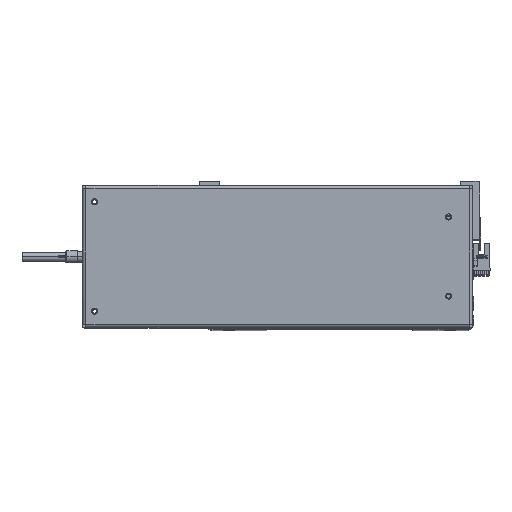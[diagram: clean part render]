
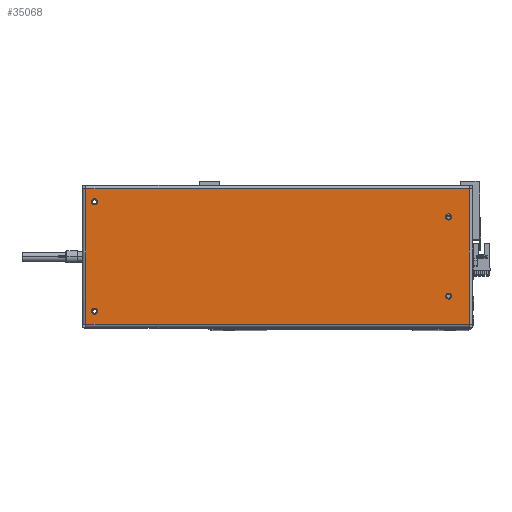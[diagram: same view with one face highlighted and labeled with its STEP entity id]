
A CAD part, top view. The second image highlights one B-rep face of the part: STEP entity #35068.
In plain terms, the highlighted planar face has unit normal (0, 0, 1).
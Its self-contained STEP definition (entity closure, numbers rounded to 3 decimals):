
#1861 = AXIS2_PLACEMENT_3D ( 'NONE', #13946, #34556, #20156 ) ;
#2189 = AXIS2_PLACEMENT_3D ( 'NONE', #35430, #24112, #14944 ) ;
#2512 = FACE_BOUND ( 'NONE', #4828, .T. ) ;
#2666 = EDGE_CURVE ( 'NONE', #33954, #14038, #34291, .T. ) ;
#3091 = CARTESIAN_POINT ( 'NONE',  ( -143., -32.5, 0. ) ) ;
#3114 = DIRECTION ( 'NONE',  ( 1., 0., 0. ) ) ;
#3183 = CARTESIAN_POINT ( 'NONE',  ( -138., 32.5, 0. ) ) ;
#3273 = EDGE_CURVE ( 'NONE', #18492, #30164, #16940, .T. ) ;
#3516 = AXIS2_PLACEMENT_3D ( 'NONE', #35820, #27159, #9855 ) ;
#3639 = DIRECTION ( 'NONE',  ( 0., 1., 0. ) ) ;
#3706 = EDGE_CURVE ( 'NONE', #22239, #27995, #26447, .T. ) ;
#3709 = CARTESIAN_POINT ( 'NONE',  ( 157.6, 55.6, 0. ) ) ;
#3808 = CARTESIAN_POINT ( 'NONE',  ( 148., 45., 0. ) ) ;
#3851 = FACE_BOUND ( 'NONE', #33537, .T. ) ;
#4302 = CARTESIAN_POINT ( 'NONE',  ( -143., 32.5, 0. ) ) ;
#4456 = EDGE_CURVE ( 'NONE', #30164, #18492, #10481, .T. ) ;
#4828 = EDGE_LOOP ( 'NONE', ( #11140, #32225 ) ) ;
#4890 = DIRECTION ( 'NONE',  ( 0., 0., -1. ) ) ;
#5568 = CARTESIAN_POINT ( 'NONE',  ( -157.6, 55.6, 0. ) ) ;
#5582 = AXIS2_PLACEMENT_3D ( 'NONE', #9362, #21182, #32375 ) ;
#6057 = EDGE_CURVE ( 'NONE', #23027, #34399, #19847, .T. ) ;
#7145 = CIRCLE ( 'NONE', #31377, 2.5 ) ;
#7345 = DIRECTION ( 'NONE',  ( 0., 0., 1. ) ) ;
#7650 = ORIENTED_EDGE ( 'NONE', *, *, #28507, .T. ) ;
#7818 = DIRECTION ( 'NONE',  ( -1., 0., 0. ) ) ;
#8542 = CARTESIAN_POINT ( 'NONE',  ( -140.5, 32.5, 0. ) ) ;
#9362 = CARTESIAN_POINT ( 'NONE',  ( 150.5, 45., 0. ) ) ;
#9855 = DIRECTION ( 'NONE',  ( 1., 0., 0. ) ) ;
#10481 = CIRCLE ( 'NONE', #2189, 2.5 ) ;
#10822 = AXIS2_PLACEMENT_3D ( 'NONE', #34034, #4890, #7818 ) ;
#11140 = ORIENTED_EDGE ( 'NONE', *, *, #19037, .F. ) ;
#12940 = CARTESIAN_POINT ( 'NONE',  ( 153., -45., 0. ) ) ;
#13201 = DIRECTION ( 'NONE',  ( 1., 0., 0. ) ) ;
#13321 = CARTESIAN_POINT ( 'NONE',  ( 150.5, -45., 0. ) ) ;
#13632 = CIRCLE ( 'NONE', #3516, 2.5 ) ;
#13946 = CARTESIAN_POINT ( 'NONE',  ( 150.5, 45., 0. ) ) ;
#14038 = VERTEX_POINT ( 'NONE', #4302 ) ;
#14548 = CARTESIAN_POINT ( 'NONE',  ( -140.5, -32.5, 0. ) ) ;
#14612 = LINE ( 'NONE', #29716, #15072 ) ;
#14944 = DIRECTION ( 'NONE',  ( 1., 0., 0. ) ) ;
#15029 = EDGE_CURVE ( 'NONE', #27995, #17468, #36247, .T. ) ;
#15043 = DIRECTION ( 'NONE',  ( -1., 0., 0. ) ) ;
#15072 = VECTOR ( 'NONE', #3639, 1000. ) ;
#16519 = CIRCLE ( 'NONE', #5582, 2.5 ) ;
#16753 = ORIENTED_EDGE ( 'NONE', *, *, #3706, .T. ) ;
#16940 = CIRCLE ( 'NONE', #31139, 2.5 ) ;
#17086 = ORIENTED_EDGE ( 'NONE', *, *, #15029, .T. ) ;
#17089 = FACE_BOUND ( 'NONE', #22305, .T. ) ;
#17270 = LINE ( 'NONE', #32470, #33667 ) ;
#17468 = VERTEX_POINT ( 'NONE', #24607 ) ;
#17907 = CARTESIAN_POINT ( 'NONE',  ( -157.6, -55.6, 0. ) ) ;
#18129 = EDGE_CURVE ( 'NONE', #17468, #26732, #14612, .T. ) ;
#18492 = VERTEX_POINT ( 'NONE', #27932 ) ;
#19037 = EDGE_CURVE ( 'NONE', #34399, #23027, #13632, .T. ) ;
#19157 = CARTESIAN_POINT ( 'NONE',  ( 153., 45., 0. ) ) ;
#19494 = ORIENTED_EDGE ( 'NONE', *, *, #4456, .F. ) ;
#19598 = ORIENTED_EDGE ( 'NONE', *, *, #20244, .F. ) ;
#19847 = CIRCLE ( 'NONE', #23931, 2.5 ) ;
#20109 = DIRECTION ( 'NONE',  ( 1., 0., 0. ) ) ;
#20156 = DIRECTION ( 'NONE',  ( 1., 0., 0. ) ) ;
#20244 = EDGE_CURVE ( 'NONE', #33695, #32477, #21656, .T. ) ;
#20454 = CARTESIAN_POINT ( 'NONE',  ( -157.7, -55.6, 0. ) ) ;
#21182 = DIRECTION ( 'NONE',  ( 0., 0., 1. ) ) ;
#21656 = CIRCLE ( 'NONE', #1861, 2.5 ) ;
#22239 = VERTEX_POINT ( 'NONE', #5568 ) ;
#22305 = EDGE_LOOP ( 'NONE', ( #30003, #19494 ) ) ;
#22782 = EDGE_CURVE ( 'NONE', #32477, #33695, #16519, .T. ) ;
#23027 = VERTEX_POINT ( 'NONE', #28043 ) ;
#23931 = AXIS2_PLACEMENT_3D ( 'NONE', #13321, #7345, #13201 ) ;
#24112 = DIRECTION ( 'NONE',  ( 0., 0., 1. ) ) ;
#24399 = DIRECTION ( 'NONE',  ( 0., 0., 1. ) ) ;
#24607 = CARTESIAN_POINT ( 'NONE',  ( 157.6, -55.6, 0. ) ) ;
#24619 = ORIENTED_EDGE ( 'NONE', *, *, #22782, .F. ) ;
#25954 = DIRECTION ( 'NONE',  ( 0., 0., 1. ) ) ;
#26447 = LINE ( 'NONE', #37397, #32366 ) ;
#26732 = VERTEX_POINT ( 'NONE', #3709 ) ;
#27082 = FACE_BOUND ( 'NONE', #33842, .T. ) ;
#27159 = DIRECTION ( 'NONE',  ( 0., 0., 1. ) ) ;
#27932 = CARTESIAN_POINT ( 'NONE',  ( -138., -32.5, 0. ) ) ;
#27995 = VERTEX_POINT ( 'NONE', #17907 ) ;
#28043 = CARTESIAN_POINT ( 'NONE',  ( 148., -45., 0. ) ) ;
#28501 = VECTOR ( 'NONE', #31631, 1000. ) ;
#28507 = EDGE_CURVE ( 'NONE', #26732, #22239, #17270, .T. ) ;
#29303 = ORIENTED_EDGE ( 'NONE', *, *, #2666, .F. ) ;
#29549 = CARTESIAN_POINT ( 'NONE',  ( -140.5, 32.5, 0. ) ) ;
#29716 = CARTESIAN_POINT ( 'NONE',  ( 157.6, -55.6, 0. ) ) ;
#30003 = ORIENTED_EDGE ( 'NONE', *, *, #3273, .F. ) ;
#30164 = VERTEX_POINT ( 'NONE', #3091 ) ;
#30513 = EDGE_CURVE ( 'NONE', #14038, #33954, #7145, .T. ) ;
#30820 = PLANE ( 'NONE',  #10822 ) ;
#31139 = AXIS2_PLACEMENT_3D ( 'NONE', #14548, #34889, #34528 ) ;
#31377 = AXIS2_PLACEMENT_3D ( 'NONE', #8542, #25954, #20109 ) ;
#31395 = DIRECTION ( 'NONE',  ( 0., -1., 0. ) ) ;
#31530 = ORIENTED_EDGE ( 'NONE', *, *, #18129, .T. ) ;
#31631 = DIRECTION ( 'NONE',  ( 1., 0., 0. ) ) ;
#32225 = ORIENTED_EDGE ( 'NONE', *, *, #6057, .F. ) ;
#32366 = VECTOR ( 'NONE', #31395, 1000. ) ;
#32375 = DIRECTION ( 'NONE',  ( 1., 0., 0. ) ) ;
#32470 = CARTESIAN_POINT ( 'NONE',  ( 157.7, 55.6, 0. ) ) ;
#32477 = VERTEX_POINT ( 'NONE', #3808 ) ;
#32977 = EDGE_LOOP ( 'NONE', ( #16753, #17086, #31530, #7650 ) ) ;
#33117 = AXIS2_PLACEMENT_3D ( 'NONE', #29549, #24399, #3114 ) ;
#33537 = EDGE_LOOP ( 'NONE', ( #29303, #37210 ) ) ;
#33667 = VECTOR ( 'NONE', #15043, 1000. ) ;
#33695 = VERTEX_POINT ( 'NONE', #19157 ) ;
#33842 = EDGE_LOOP ( 'NONE', ( #19598, #24619 ) ) ;
#33924 = FACE_OUTER_BOUND ( 'NONE', #32977, .T. ) ;
#33954 = VERTEX_POINT ( 'NONE', #3183 ) ;
#34034 = CARTESIAN_POINT ( 'NONE',  ( 157.7, 58.5, 0. ) ) ;
#34291 = CIRCLE ( 'NONE', #33117, 2.5 ) ;
#34399 = VERTEX_POINT ( 'NONE', #12940 ) ;
#34528 = DIRECTION ( 'NONE',  ( 1., 0., 0. ) ) ;
#34556 = DIRECTION ( 'NONE',  ( 0., 0., 1. ) ) ;
#34889 = DIRECTION ( 'NONE',  ( 0., 0., 1. ) ) ;
#35068 = ADVANCED_FACE ( 'NONE', ( #17089, #3851, #2512, #27082, #33924 ), #30820, .F. ) ;
#35430 = CARTESIAN_POINT ( 'NONE',  ( -140.5, -32.5, 0. ) ) ;
#35820 = CARTESIAN_POINT ( 'NONE',  ( 150.5, -45., 0. ) ) ;
#36247 = LINE ( 'NONE', #20454, #28501 ) ;
#37210 = ORIENTED_EDGE ( 'NONE', *, *, #30513, .F. ) ;
#37397 = CARTESIAN_POINT ( 'NONE',  ( -157.6, 55.6, 0. ) ) ;
